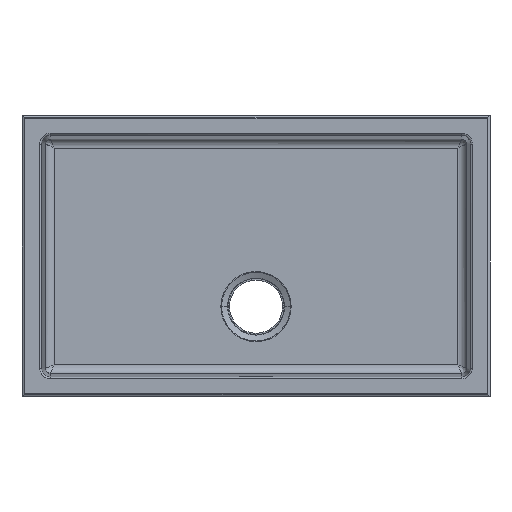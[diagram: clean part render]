
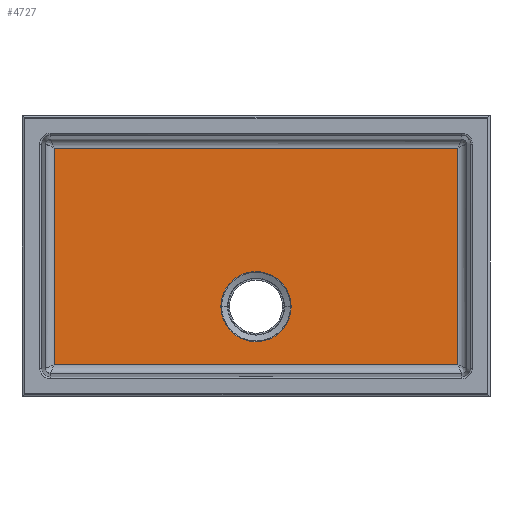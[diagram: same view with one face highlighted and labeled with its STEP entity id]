
A CAD part, top view. The second image highlights one B-rep face of the part: STEP entity #4727.
In plain terms, the highlighted planar face has unit normal (0, 0, 1).
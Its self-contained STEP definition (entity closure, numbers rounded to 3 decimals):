
#4604=CARTESIAN_POINT('Axis2P3D Location',(-340.35,32.924,-194.1)) ;
#4609=CARTESIAN_POINT('Line Origine',(-340.35,54.219,-194.1)) ;
#4613=CARTESIAN_POINT('Vertex',(334.055,54.219,-194.1)) ;
#4615=CARTESIAN_POINT('Vertex',(-334.055,54.219,-194.1)) ;
#4618=CARTESIAN_POINT('Line Origine',(334.055,32.924,-194.1)) ;
#4622=CARTESIAN_POINT('Vertex',(334.055,412.629,-194.1)) ;
#4625=CARTESIAN_POINT('Line Origine',(-340.35,412.629,-194.1)) ;
#4629=CARTESIAN_POINT('Vertex',(-334.055,412.629,-194.1)) ;
#4632=CARTESIAN_POINT('Line Origine',(-334.055,32.924,-194.1)) ;
#4644=CARTESIAN_POINT('Control Point',(58.143,150.022,-194.1)) ;
#4645=CARTESIAN_POINT('Control Point',(58.143,149.448,-194.1)) ;
#4646=CARTESIAN_POINT('Control Point',(58.136,148.877,-194.1)) ;
#4647=CARTESIAN_POINT('Control Point',(58.122,148.302,-194.1)) ;
#4648=CARTESIAN_POINT('Control Point',(58.007,145.197,-194.1)) ;
#4649=CARTESIAN_POINT('Control Point',(57.685,142.101,-194.1)) ;
#4650=CARTESIAN_POINT('Control Point',(57.284,139.594,-194.1)) ;
#4651=CARTESIAN_POINT('Control Point',(56.091,134.072,-194.1)) ;
#4652=CARTESIAN_POINT('Control Point',(54.238,128.731,-194.1)) ;
#4653=CARTESIAN_POINT('Control Point',(53.023,125.862,-194.1)) ;
#4654=CARTESIAN_POINT('Control Point',(49.071,118.037,-194.1)) ;
#4655=CARTESIAN_POINT('Control Point',(43.703,111.05,-194.1)) ;
#4656=CARTESIAN_POINT('Control Point',(39.71,106.988,-194.1)) ;
#4657=CARTESIAN_POINT('Control Point',(30.816,99.912,-194.1)) ;
#4658=CARTESIAN_POINT('Control Point',(20.488,95.168,-194.1)) ;
#4659=CARTESIAN_POINT('Control Point',(15.061,93.436,-194.1)) ;
#4660=CARTESIAN_POINT('Control Point',(3.895,91.324,-194.1)) ;
#4661=CARTESIAN_POINT('Control Point',(-7.45,91.942,-194.1)) ;
#4662=CARTESIAN_POINT('Control Point',(-13.058,92.941,-194.1)) ;
#4663=CARTESIAN_POINT('Control Point',(-23.921,96.279,-194.1)) ;
#4664=CARTESIAN_POINT('Control Point',(-33.673,102.117,-194.1)) ;
#4665=CARTESIAN_POINT('Control Point',(-38.168,105.615,-194.1)) ;
#4666=CARTESIAN_POINT('Control Point',(-44.963,112.38,-194.1)) ;
#4667=CARTESIAN_POINT('Control Point',(-50.227,120.349,-194.1)) ;
#4668=CARTESIAN_POINT('Control Point',(-52.095,123.767,-194.1)) ;
#4669=CARTESIAN_POINT('Control Point',(-54.457,129.104,-194.1)) ;
#4670=CARTESIAN_POINT('Control Point',(-56.132,134.68,-194.1)) ;
#4671=CARTESIAN_POINT('Control Point',(-56.613,136.561,-194.1)) ;
#4672=CARTESIAN_POINT('Control Point',(-57.215,139.409,-194.1)) ;
#4673=CARTESIAN_POINT('Control Point',(-57.638,142.287,-194.1)) ;
#4674=CARTESIAN_POINT('Control Point',(-57.759,143.249,-194.1)) ;
#4675=CARTESIAN_POINT('Control Point',(-57.961,145.178,-194.1)) ;
#4676=CARTESIAN_POINT('Control Point',(-58.082,147.114,-194.1)) ;
#4677=CARTESIAN_POINT('Control Point',(-58.123,148.082,-194.1)) ;
#4678=CARTESIAN_POINT('Control Point',(-58.143,149.052,-194.1)) ;
#4679=CARTESIAN_POINT('Control Point',(-58.143,150.022,-194.1)) ;
#4680=CARTESIAN_POINT('Vertex',(-58.143,150.022,-194.1)) ;
#4682=CARTESIAN_POINT('Vertex',(58.143,150.022,-194.1)) ;
#4686=CARTESIAN_POINT('Control Point',(58.143,150.022,-194.1)) ;
#4687=CARTESIAN_POINT('Control Point',(58.143,151.533,-194.1)) ;
#4688=CARTESIAN_POINT('Control Point',(58.094,153.045,-194.1)) ;
#4689=CARTESIAN_POINT('Control Point',(57.996,154.553,-194.1)) ;
#4690=CARTESIAN_POINT('Control Point',(57.701,157.562,-194.1)) ;
#4691=CARTESIAN_POINT('Control Point',(57.212,160.546,-194.1)) ;
#4692=CARTESIAN_POINT('Control Point',(56.92,162.029,-194.1)) ;
#4693=CARTESIAN_POINT('Control Point',(55.897,166.447,-194.1)) ;
#4694=CARTESIAN_POINT('Control Point',(54.448,170.752,-194.1)) ;
#4695=CARTESIAN_POINT('Control Point',(53.297,173.555,-194.1)) ;
#4696=CARTESIAN_POINT('Control Point',(49.483,181.352,-194.1)) ;
#4697=CARTESIAN_POINT('Control Point',(44.27,188.349,-194.1)) ;
#4698=CARTESIAN_POINT('Control Point',(40.337,192.469,-194.1)) ;
#4699=CARTESIAN_POINT('Control Point',(31.547,199.675,-194.1)) ;
#4700=CARTESIAN_POINT('Control Point',(21.29,204.57,-194.1)) ;
#4701=CARTESIAN_POINT('Control Point',(15.889,206.381,-194.1)) ;
#4702=CARTESIAN_POINT('Control Point',(4.756,208.656,-194.1)) ;
#4703=CARTESIAN_POINT('Control Point',(-6.598,208.205,-194.1)) ;
#4704=CARTESIAN_POINT('Control Point',(-12.219,207.289,-194.1)) ;
#4705=CARTESIAN_POINT('Control Point',(-23.13,204.111,-194.1)) ;
#4706=CARTESIAN_POINT('Control Point',(-32.967,198.416,-194.1)) ;
#4707=CARTESIAN_POINT('Control Point',(-37.513,194.984,-194.1)) ;
#4708=CARTESIAN_POINT('Control Point',(-44.468,188.26,-194.1)) ;
#4709=CARTESIAN_POINT('Control Point',(-49.883,180.287,-194.1)) ;
#4710=CARTESIAN_POINT('Control Point',(-51.831,176.814,-194.1)) ;
#4711=CARTESIAN_POINT('Control Point',(-54.295,171.381,-194.1)) ;
#4712=CARTESIAN_POINT('Control Point',(-56.044,165.694,-194.1)) ;
#4713=CARTESIAN_POINT('Control Point',(-56.545,163.774,-194.1)) ;
#4714=CARTESIAN_POINT('Control Point',(-57.174,160.866,-194.1)) ;
#4715=CARTESIAN_POINT('Control Point',(-57.616,157.926,-194.1)) ;
#4716=CARTESIAN_POINT('Control Point',(-57.742,156.943,-194.1)) ;
#4717=CARTESIAN_POINT('Control Point',(-57.953,154.972,-194.1)) ;
#4718=CARTESIAN_POINT('Control Point',(-58.08,152.994,-194.1)) ;
#4719=CARTESIAN_POINT('Control Point',(-58.122,152.007,-194.1)) ;
#4720=CARTESIAN_POINT('Control Point',(-58.143,151.011,-194.1)) ;
#4721=CARTESIAN_POINT('Control Point',(-58.143,150.022,-194.1)) ;
#4605=DIRECTION('Axis2P3D Direction',(0.,-0.,-1.)) ;
#4606=DIRECTION('Axis2P3D XDirection',(1.,0.,-0.)) ;
#4610=DIRECTION('Vector Direction',(1.,0.,0.)) ;
#4619=DIRECTION('Vector Direction',(0.,-1.,0.)) ;
#4626=DIRECTION('Vector Direction',(1.,0.,0.)) ;
#4633=DIRECTION('Vector Direction',(0.,-1.,0.)) ;
#4607=AXIS2_PLACEMENT_3D('Plane Axis2P3D',#4604,#4605,#4606) ;
#4638=ORIENTED_EDGE('',*,*,#4617,.F.) ;
#4639=ORIENTED_EDGE('',*,*,#4624,.F.) ;
#4640=ORIENTED_EDGE('',*,*,#4631,.F.) ;
#4641=ORIENTED_EDGE('',*,*,#4636,.F.) ;
#4724=ORIENTED_EDGE('',*,*,#4684,.F.) ;
#4725=ORIENTED_EDGE('',*,*,#4722,.F.) ;
#4726=FACE_BOUND('',#4723,.T.) ;
#4611=VECTOR('Line Direction',#4610,1.) ;
#4620=VECTOR('Line Direction',#4619,1.) ;
#4627=VECTOR('Line Direction',#4626,1.) ;
#4634=VECTOR('Line Direction',#4633,1.) ;
#4727=ADVANCED_FACE('PartBody',(#4642,#4726),#4608,.F.) ;
#4643=B_SPLINE_CURVE_WITH_KNOTS('',5,(#4644,#4645,#4646,#4647,#4648,#4649,#4650,#4651,#4652,#4653,#4654,#4655,#4656,#4657,#4658,#4659,#4660,#4661,#4662,#4663,#4664,#4665,#4666,#4667,#4668,#4669,#4670,#4671,#4672,#4673,#4674,#4675,#4676,#4677,#4678,#4679),.UNSPECIFIED.,.F.,.U.,(6,3,3,3,3,3,3,3,3,3,3,6),(89.61,93.469,110.528,131.446,169.419,207.398,245.377,283.351,309.458,322.512,329.039,335.566),.UNSPECIFIED.) ;
#4685=B_SPLINE_CURVE_WITH_KNOTS('',5,(#4686,#4687,#4688,#4689,#4690,#4691,#4692,#4693,#4694,#4695,#4696,#4697,#4698,#4699,#4700,#4701,#4702,#4703,#4704,#4705,#4706,#4707,#4708,#4709,#4710,#4711,#4712,#4713,#4714,#4715,#4716,#4717,#4718,#4719,#4720,#4721),.UNSPECIFIED.,.F.,.U.,(6,3,3,3,3,3,3,3,3,3,3,6),(85.417,95.589,105.761,126.105,164.08,202.057,240.036,278.01,304.692,318.034,324.704,331.375),.UNSPECIFIED.) ;
#4617=EDGE_CURVE('',#4614,#4616,#4612,.F.) ;
#4624=EDGE_CURVE('',#4623,#4614,#4621,.T.) ;
#4631=EDGE_CURVE('',#4630,#4623,#4628,.T.) ;
#4636=EDGE_CURVE('',#4616,#4630,#4635,.F.) ;
#4684=EDGE_CURVE('',#4681,#4683,#4643,.F.) ;
#4722=EDGE_CURVE('',#4683,#4681,#4685,.T.) ;
#4637=EDGE_LOOP('',(#4638,#4639,#4640,#4641)) ;
#4723=EDGE_LOOP('',(#4724,#4725)) ;
#4642=FACE_OUTER_BOUND('',#4637,.T.) ;
#4612=LINE('Line',#4609,#4611) ;
#4621=LINE('Line',#4618,#4620) ;
#4628=LINE('Line',#4625,#4627) ;
#4635=LINE('Line',#4632,#4634) ;
#4608=PLANE('',#4607) ;
#4614=VERTEX_POINT('',#4613) ;
#4616=VERTEX_POINT('',#4615) ;
#4623=VERTEX_POINT('',#4622) ;
#4630=VERTEX_POINT('',#4629) ;
#4681=VERTEX_POINT('',#4680) ;
#4683=VERTEX_POINT('',#4682) ;
